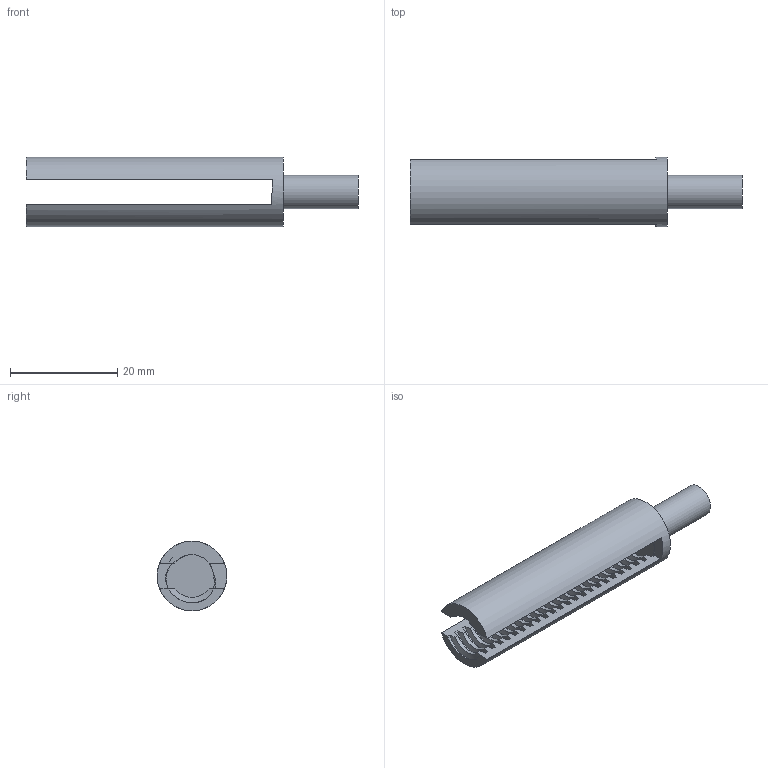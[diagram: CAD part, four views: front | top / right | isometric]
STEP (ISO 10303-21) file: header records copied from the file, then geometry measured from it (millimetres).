
FILE_DESCRIPTION(/* description */ ('Unknown'),/* implementation_level */ '2;1');
FILE_NAME(/* name */ 'Or_4638507_c)_AVV',/* time_stamp */ '2025-07-22T00:02:31+02:00',/* author */ ('Unknown'),/* organization */ ('Unknown'),/* preprocessor_version */ 'ST-DEVELOPER v19.4',/* originating_system */ 'Solid Edge',/* authorisation */ 'Unknown');
FILE_SCHEMA (('AUTOMOTIVE_DESIGN {1 0 10303 214 3 1 1}'));
Products named in the file (1): Or_4638507_c)_AVV
Bounding box: 62 x 13 x 13 mm (x, y, z)
Volume: 2811.6 mm3; surface area: 4072.9 mm2
Topology: 1 solids, 1 shells, 228 faces, 667 edges, 443 vertices
Faces by surface type: cylinder 113, bspline 95, plane 20
Full cylindrical faces by diameter (mm): 6.2 x1, 13 x1
Entity records: 110181 total; most frequent: CARTESIAN_POINT 105396, ORIENTED_EDGE 1328, EDGE_CURVE 664, DIRECTION 598, VERTEX_POINT 442, LINE 238, VECTOR 238, EDGE_LOOP 232
